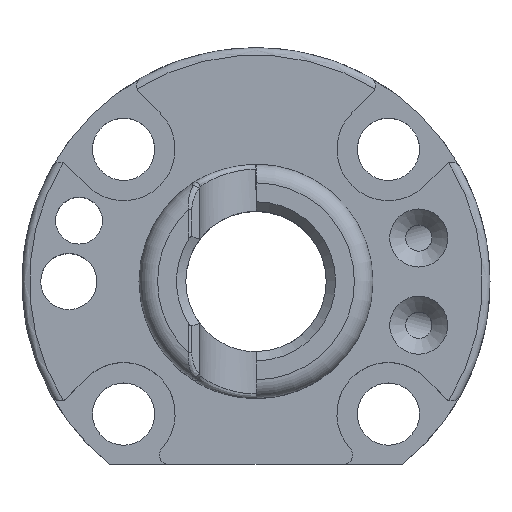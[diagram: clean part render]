
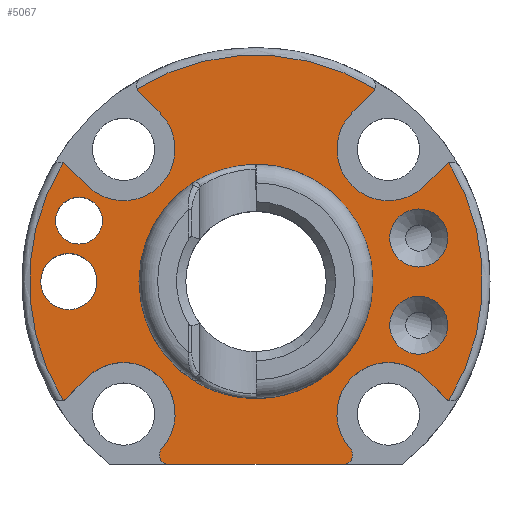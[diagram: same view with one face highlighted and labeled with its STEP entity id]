
A CAD part, top view. The second image highlights one B-rep face of the part: STEP entity #5067.
In plain terms, the highlighted planar face has unit normal (0, 0, 1).
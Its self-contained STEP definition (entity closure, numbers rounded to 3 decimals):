
#101=CIRCLE('',#5268,3.1);
#103=CIRCLE('',#5272,3.1);
#119=CIRCLE('',#5311,3.);
#121=CIRCLE('',#5314,2.5);
#124=CIRCLE('',#5318,1.);
#125=CIRCLE('',#5321,5.5);
#126=CIRCLE('',#5322,1.);
#127=CIRCLE('',#5323,24.2);
#128=CIRCLE('',#5324,1.);
#129=CIRCLE('',#5325,5.5);
#130=CIRCLE('',#5326,1.);
#131=CIRCLE('',#5327,24.2);
#132=CIRCLE('',#5328,1.);
#133=CIRCLE('',#5329,5.5);
#134=CIRCLE('',#5330,1.);
#135=CIRCLE('',#5331,24.2);
#136=CIRCLE('',#5332,1.);
#137=CIRCLE('',#5333,5.5);
#138=CIRCLE('',#5334,1.);
#139=CIRCLE('',#5335,12.5);
#295=FACE_BOUND('',#1066,.T.);
#296=FACE_BOUND('',#1067,.T.);
#297=FACE_BOUND('',#1068,.T.);
#298=FACE_BOUND('',#1069,.T.);
#299=FACE_BOUND('',#1070,.T.);
#761=FACE_OUTER_BOUND('',#1065,.T.);
#1065=EDGE_LOOP('',(#4362,#4363,#4364,#4365,#4366,#4367,#4368,#4369,#4370,
#4371,#4372,#4373,#4374,#4375,#4376,#4377,#4378,#4379,#4380,#4381,#4382,
#4383));
#1066=EDGE_LOOP('',(#4384));
#1067=EDGE_LOOP('',(#4385));
#1068=EDGE_LOOP('',(#4386));
#1069=EDGE_LOOP('',(#4387));
#1070=EDGE_LOOP('',(#4388));
#1489=LINE('',#10375,#1898);
#1493=LINE('',#10406,#1902);
#1494=LINE('',#10414,#1903);
#1495=LINE('',#10418,#1904);
#1496=LINE('',#10426,#1905);
#1497=LINE('',#10430,#1906);
#1498=LINE('',#10438,#1907);
#1898=VECTOR('',#6150,10.);
#1902=VECTOR('',#6158,10.);
#1903=VECTOR('',#6165,10.);
#1904=VECTOR('',#6168,10.);
#1905=VECTOR('',#6175,10.);
#1906=VECTOR('',#6178,10.);
#1907=VECTOR('',#6185,10.);
#2333=VERTEX_POINT('',#10187);
#2337=VERTEX_POINT('',#10235);
#2359=VERTEX_POINT('',#10352);
#2361=VERTEX_POINT('',#10358);
#2365=VERTEX_POINT('',#10367);
#2366=VERTEX_POINT('',#10369);
#2367=VERTEX_POINT('',#10374);
#2371=VERTEX_POINT('',#10403);
#2372=VERTEX_POINT('',#10405);
#2373=VERTEX_POINT('',#10407);
#2374=VERTEX_POINT('',#10409);
#2375=VERTEX_POINT('',#10411);
#2376=VERTEX_POINT('',#10413);
#2377=VERTEX_POINT('',#10415);
#2378=VERTEX_POINT('',#10417);
#2379=VERTEX_POINT('',#10419);
#2380=VERTEX_POINT('',#10421);
#2381=VERTEX_POINT('',#10423);
#2382=VERTEX_POINT('',#10425);
#2383=VERTEX_POINT('',#10427);
#2384=VERTEX_POINT('',#10429);
#2385=VERTEX_POINT('',#10431);
#2386=VERTEX_POINT('',#10433);
#2387=VERTEX_POINT('',#10435);
#2388=VERTEX_POINT('',#10437);
#2389=VERTEX_POINT('',#10439);
#2390=VERTEX_POINT('',#10442);
#2996=EDGE_CURVE('',#2333,#2333,#101,.T.);
#3002=EDGE_CURVE('',#2337,#2337,#103,.T.);
#3038=EDGE_CURVE('',#2359,#2359,#119,.T.);
#3041=EDGE_CURVE('',#2361,#2361,#121,.T.);
#3046=EDGE_CURVE('',#2365,#2366,#124,.T.);
#3049=EDGE_CURVE('',#2367,#2366,#1489,.T.);
#3055=EDGE_CURVE('',#2365,#2371,#125,.T.);
#3056=EDGE_CURVE('',#2371,#2372,#1493,.T.);
#3057=EDGE_CURVE('',#2373,#2372,#126,.T.);
#3058=EDGE_CURVE('',#2374,#2373,#127,.T.);
#3059=EDGE_CURVE('',#2375,#2374,#128,.T.);
#3060=EDGE_CURVE('',#2375,#2376,#1494,.T.);
#3061=EDGE_CURVE('',#2376,#2377,#129,.T.);
#3062=EDGE_CURVE('',#2377,#2378,#1495,.T.);
#3063=EDGE_CURVE('',#2379,#2378,#130,.T.);
#3064=EDGE_CURVE('',#2380,#2379,#131,.T.);
#3065=EDGE_CURVE('',#2381,#2380,#132,.T.);
#3066=EDGE_CURVE('',#2381,#2382,#1496,.T.);
#3067=EDGE_CURVE('',#2382,#2383,#133,.T.);
#3068=EDGE_CURVE('',#2383,#2384,#1497,.T.);
#3069=EDGE_CURVE('',#2385,#2384,#134,.T.);
#3070=EDGE_CURVE('',#2386,#2385,#135,.T.);
#3071=EDGE_CURVE('',#2387,#2386,#136,.T.);
#3072=EDGE_CURVE('',#2387,#2388,#1498,.T.);
#3073=EDGE_CURVE('',#2388,#2389,#137,.T.);
#3074=EDGE_CURVE('',#2367,#2389,#138,.T.);
#3075=EDGE_CURVE('',#2390,#2390,#139,.T.);
#4362=ORIENTED_EDGE('',*,*,#3046,.F.);
#4363=ORIENTED_EDGE('',*,*,#3055,.T.);
#4364=ORIENTED_EDGE('',*,*,#3056,.T.);
#4365=ORIENTED_EDGE('',*,*,#3057,.F.);
#4366=ORIENTED_EDGE('',*,*,#3058,.F.);
#4367=ORIENTED_EDGE('',*,*,#3059,.F.);
#4368=ORIENTED_EDGE('',*,*,#3060,.T.);
#4369=ORIENTED_EDGE('',*,*,#3061,.T.);
#4370=ORIENTED_EDGE('',*,*,#3062,.T.);
#4371=ORIENTED_EDGE('',*,*,#3063,.F.);
#4372=ORIENTED_EDGE('',*,*,#3064,.F.);
#4373=ORIENTED_EDGE('',*,*,#3065,.F.);
#4374=ORIENTED_EDGE('',*,*,#3066,.T.);
#4375=ORIENTED_EDGE('',*,*,#3067,.T.);
#4376=ORIENTED_EDGE('',*,*,#3068,.T.);
#4377=ORIENTED_EDGE('',*,*,#3069,.F.);
#4378=ORIENTED_EDGE('',*,*,#3070,.F.);
#4379=ORIENTED_EDGE('',*,*,#3071,.F.);
#4380=ORIENTED_EDGE('',*,*,#3072,.T.);
#4381=ORIENTED_EDGE('',*,*,#3073,.T.);
#4382=ORIENTED_EDGE('',*,*,#3074,.F.);
#4383=ORIENTED_EDGE('',*,*,#3049,.T.);
#4384=ORIENTED_EDGE('',*,*,#2996,.T.);
#4385=ORIENTED_EDGE('',*,*,#3002,.T.);
#4386=ORIENTED_EDGE('',*,*,#3038,.T.);
#4387=ORIENTED_EDGE('',*,*,#3041,.T.);
#4388=ORIENTED_EDGE('',*,*,#3075,.T.);
#4705=PLANE('',#5320);
#5067=ADVANCED_FACE('',(#761,#295,#296,#297,#298,#299),#4705,.T.);
#5268=AXIS2_PLACEMENT_3D('',#10188,#6021,#6022);
#5272=AXIS2_PLACEMENT_3D('',#10236,#6031,#6032);
#5311=AXIS2_PLACEMENT_3D('',#10353,#6127,#6128);
#5314=AXIS2_PLACEMENT_3D('',#10359,#6134,#6135);
#5318=AXIS2_PLACEMENT_3D('',#10370,#6144,#6145);
#5320=AXIS2_PLACEMENT_3D('',#10402,#6154,#6155);
#5321=AXIS2_PLACEMENT_3D('',#10404,#6156,#6157);
#5322=AXIS2_PLACEMENT_3D('',#10408,#6159,#6160);
#5323=AXIS2_PLACEMENT_3D('',#10410,#6161,#6162);
#5324=AXIS2_PLACEMENT_3D('',#10412,#6163,#6164);
#5325=AXIS2_PLACEMENT_3D('',#10416,#6166,#6167);
#5326=AXIS2_PLACEMENT_3D('',#10420,#6169,#6170);
#5327=AXIS2_PLACEMENT_3D('',#10422,#6171,#6172);
#5328=AXIS2_PLACEMENT_3D('',#10424,#6173,#6174);
#5329=AXIS2_PLACEMENT_3D('',#10428,#6176,#6177);
#5330=AXIS2_PLACEMENT_3D('',#10432,#6179,#6180);
#5331=AXIS2_PLACEMENT_3D('',#10434,#6181,#6182);
#5332=AXIS2_PLACEMENT_3D('',#10436,#6183,#6184);
#5333=AXIS2_PLACEMENT_3D('',#10440,#6186,#6187);
#5334=AXIS2_PLACEMENT_3D('',#10441,#6188,#6189);
#5335=AXIS2_PLACEMENT_3D('',#10443,#6190,#6191);
#6021=DIRECTION('center_axis',(0.,0.,-1.));
#6022=DIRECTION('ref_axis',(1.,0.,0.));
#6031=DIRECTION('center_axis',(0.,0.,-1.));
#6032=DIRECTION('ref_axis',(1.,0.,0.));
#6127=DIRECTION('center_axis',(0.,0.,-1.));
#6128=DIRECTION('ref_axis',(1.,0.,0.));
#6134=DIRECTION('center_axis',(0.,0.,-1.));
#6135=DIRECTION('ref_axis',(1.,0.,0.));
#6144=DIRECTION('center_axis',(0.,0.,-1.));
#6145=DIRECTION('ref_axis',(0.,1.,0.));
#6150=DIRECTION('',(1.,0.,0.));
#6154=DIRECTION('center_axis',(0.,0.,1.));
#6155=DIRECTION('ref_axis',(1.,0.,0.));
#6156=DIRECTION('center_axis',(0.,0.,-1.));
#6157=DIRECTION('ref_axis',(1.,0.,0.));
#6158=DIRECTION('',(0.707,-0.707,0.));
#6159=DIRECTION('center_axis',(0.,0.,-1.));
#6160=DIRECTION('ref_axis',(0.707,0.707,0.));
#6161=DIRECTION('center_axis',(0.,0.,-1.));
#6162=DIRECTION('ref_axis',(1.,0.,0.));
#6163=DIRECTION('center_axis',(0.,0.,-1.));
#6164=DIRECTION('ref_axis',(-0.872,-0.489,0.));
#6165=DIRECTION('',(-0.707,-0.707,0.));
#6166=DIRECTION('center_axis',(0.,0.,-1.));
#6167=DIRECTION('ref_axis',(1.,0.,0.));
#6168=DIRECTION('',(0.707,0.707,0.));
#6169=DIRECTION('center_axis',(0.,0.,-1.));
#6170=DIRECTION('ref_axis',(-0.707,0.707,0.));
#6171=DIRECTION('center_axis',(0.,0.,-1.));
#6172=DIRECTION('ref_axis',(1.,0.,0.));
#6173=DIRECTION('center_axis',(0.,0.,-1.));
#6174=DIRECTION('ref_axis',(0.489,-0.872,0.));
#6175=DIRECTION('',(0.707,-0.707,0.));
#6176=DIRECTION('center_axis',(0.,0.,-1.));
#6177=DIRECTION('ref_axis',(1.,0.,0.));
#6178=DIRECTION('',(-0.707,0.707,0.));
#6179=DIRECTION('center_axis',(0.,0.,-1.));
#6180=DIRECTION('ref_axis',(-0.707,-0.707,0.));
#6181=DIRECTION('center_axis',(0.,0.,-1.));
#6182=DIRECTION('ref_axis',(1.,0.,0.));
#6183=DIRECTION('center_axis',(0.,0.,-1.));
#6184=DIRECTION('ref_axis',(0.872,0.489,0.));
#6185=DIRECTION('',(0.707,0.707,0.));
#6186=DIRECTION('center_axis',(0.,0.,-1.));
#6187=DIRECTION('ref_axis',(1.,0.,0.));
#6188=DIRECTION('center_axis',(0.,0.,-1.));
#6189=DIRECTION('ref_axis',(0.,1.,0.));
#6190=DIRECTION('center_axis',(0.,0.,-1.));
#6191=DIRECTION('ref_axis',(1.,0.,0.));
#10187=CARTESIAN_POINT('',(14.287,4.659,15.));
#10188=CARTESIAN_POINT('Origin',(17.387,4.659,15.));
#10235=CARTESIAN_POINT('',(14.287,-4.659,15.));
#10236=CARTESIAN_POINT('Origin',(17.387,-4.659,15.));
#10352=CARTESIAN_POINT('',(-23.,0.,15.));
#10353=CARTESIAN_POINT('Origin',(-20.,0.,15.));
#10358=CARTESIAN_POINT('',(-21.41,6.511,15.));
#10359=CARTESIAN_POINT('Origin',(-18.91,6.511,15.));
#10367=CARTESIAN_POINT('',(10.061,-17.83,15.));
#10369=CARTESIAN_POINT('',(9.319,-19.5,15.));
#10370=CARTESIAN_POINT('Origin',(9.319,-18.5,15.));
#10374=CARTESIAN_POINT('',(-9.319,-19.5,15.));
#10375=CARTESIAN_POINT('',(-4.278,-19.5,15.));
#10402=CARTESIAN_POINT('Origin',(-24.2,0.,15.));
#10403=CARTESIAN_POINT('',(18.031,-10.253,15.));
#10404=CARTESIAN_POINT('Origin',(14.142,-14.142,15.));
#10405=CARTESIAN_POINT('',(20.225,-12.447,15.));
#10406=CARTESIAN_POINT('',(4.91,2.868,15.));
#10407=CARTESIAN_POINT('',(20.608,-12.686,15.));
#10408=CARTESIAN_POINT('Origin',(20.933,-11.74,15.));
#10409=CARTESIAN_POINT('',(20.608,12.686,15.));
#10410=CARTESIAN_POINT('Origin',(0.,0.,15.));
#10411=CARTESIAN_POINT('',(20.225,12.447,15.));
#10412=CARTESIAN_POINT('Origin',(20.933,11.74,15.));
#10413=CARTESIAN_POINT('',(18.031,10.253,15.));
#10414=CARTESIAN_POINT('',(6.678,-1.1,15.));
#10415=CARTESIAN_POINT('',(10.253,18.031,15.));
#10416=CARTESIAN_POINT('Origin',(14.142,14.142,15.));
#10417=CARTESIAN_POINT('',(12.447,20.225,15.));
#10418=CARTESIAN_POINT('',(-2.868,4.91,15.));
#10419=CARTESIAN_POINT('',(12.686,20.608,15.));
#10420=CARTESIAN_POINT('Origin',(11.74,20.933,15.));
#10421=CARTESIAN_POINT('',(-12.686,20.608,15.));
#10422=CARTESIAN_POINT('Origin',(0.,0.,15.));
#10423=CARTESIAN_POINT('',(-12.447,20.225,15.));
#10424=CARTESIAN_POINT('Origin',(-11.74,20.933,15.));
#10425=CARTESIAN_POINT('',(-10.253,18.031,15.));
#10426=CARTESIAN_POINT('',(-11.,18.778,15.));
#10427=CARTESIAN_POINT('',(-18.031,10.253,15.));
#10428=CARTESIAN_POINT('Origin',(-14.142,14.142,15.));
#10429=CARTESIAN_POINT('',(-20.225,12.447,15.));
#10430=CARTESIAN_POINT('',(-17.01,9.232,15.));
#10431=CARTESIAN_POINT('',(-20.608,12.686,15.));
#10432=CARTESIAN_POINT('Origin',(-20.933,11.74,15.));
#10433=CARTESIAN_POINT('',(-20.608,-12.686,15.));
#10434=CARTESIAN_POINT('Origin',(0.,0.,15.));
#10435=CARTESIAN_POINT('',(-20.225,-12.447,15.));
#10436=CARTESIAN_POINT('Origin',(-20.933,-11.74,15.));
#10437=CARTESIAN_POINT('',(-18.031,-10.253,15.));
#10438=CARTESIAN_POINT('',(-18.778,-11.,15.));
#10439=CARTESIAN_POINT('',(-10.061,-17.83,15.));
#10440=CARTESIAN_POINT('Origin',(-14.142,-14.142,15.));
#10441=CARTESIAN_POINT('Origin',(-9.319,-18.5,15.));
#10442=CARTESIAN_POINT('',(12.5,0.,15.));
#10443=CARTESIAN_POINT('Origin',(0.,0.,15.));
